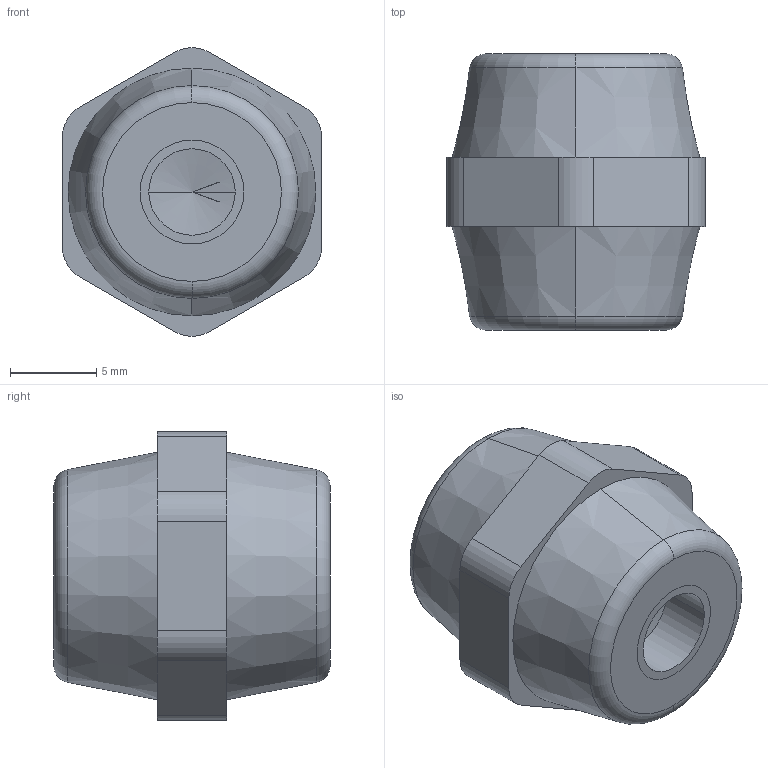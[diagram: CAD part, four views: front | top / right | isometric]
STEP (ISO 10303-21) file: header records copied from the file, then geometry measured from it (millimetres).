
FILE_DESCRIPTION (( 'STEP AP214' ), '1' );
FILE_NAME ('Isolatore 1563 15X16-M5.STEP', '2025-04-14T10:00:14', ( '' ), ( '' ), 'SwSTEP 2.0', 'SolidWorks 2020', '' );
FILE_SCHEMA (( 'AUTOMOTIVE_DESIGN' ));
Length unit declared in the file: millimetre
Products named in the file (1): Isolatore 1563 15X16-M5
Bounding box: 15 x 16 x 16.7 mm (x, y, z)
Volume: 2276.1 mm3; surface area: 1642.2 mm2
Topology: 3 solids, 3 shells, 75 faces, 167 edges, 100 vertices
Faces by surface type: cylinder 35, plane 20, cone 16, torus 4
Entity records: 2562 total; most frequent: DIRECTION 393, CARTESIAN_POINT 331, ORIENTED_EDGE 310, AXIS2_PLACEMENT_3D 162, EDGE_CURVE 155, VERTEX_POINT 100, EDGE_LOOP 89, CIRCLE 86
